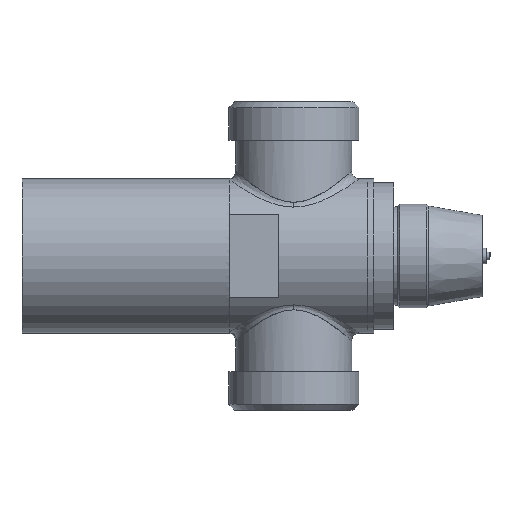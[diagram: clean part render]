
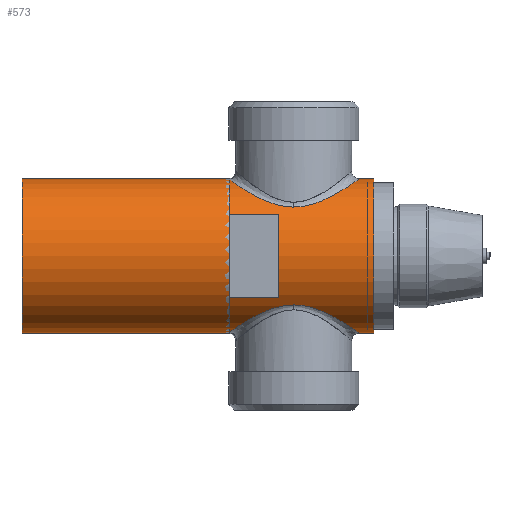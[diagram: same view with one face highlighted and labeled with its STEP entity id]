
A CAD part, left-side view. The second image highlights one B-rep face of the part: STEP entity #573.
In plain terms, the highlighted cylindrical face has radius 20 mm (diameter 40 mm), a full revolution.
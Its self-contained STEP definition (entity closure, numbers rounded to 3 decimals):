
#573=ADVANCED_FACE('',(#665,#666),#605,.T.);
#605=CYLINDRICAL_SURFACE('',#2397,20.);
#665=FACE_BOUND('',#751,.T.);
#666=FACE_BOUND('',#752,.T.);
#751=EDGE_LOOP('',(#994));
#752=EDGE_LOOP('',(#995));
#994=ORIENTED_EDGE('',*,*,#1590,.T.);
#995=ORIENTED_EDGE('',*,*,#1591,.T.);
#1292=VERTEX_POINT('',#5471);
#1293=VERTEX_POINT('',#5473);
#1590=EDGE_CURVE('',#1292,#1292,#1738,.T.);
#1591=EDGE_CURVE('',#1293,#1293,#1739,.T.);
#1738=CIRCLE('',#2395,20.);
#1739=CIRCLE('',#2396,20.);
#2395=AXIS2_PLACEMENT_3D('',#5470,#2646,#2647);
#2396=AXIS2_PLACEMENT_3D('',#5472,#2648,#2649);
#2397=AXIS2_PLACEMENT_3D('',#5474,#2650,#2651);
#2646=DIRECTION('',(0.,-1.,0.));
#2647=DIRECTION('',(0.,0.,-1.));
#2648=DIRECTION('',(0.,1.,0.));
#2649=DIRECTION('',(-1.,0.,0.));
#2650=DIRECTION('',(0.,-1.,0.));
#2651=DIRECTION('',(0.,0.,-1.));
#5470=CARTESIAN_POINT('',(0.,70.479,40.));
#5471=CARTESIAN_POINT('',(0.,70.479,20.));
#5472=CARTESIAN_POINT('',(0.,-20.79,40.));
#5473=CARTESIAN_POINT('',(-20.,-20.79,40.));
#5474=CARTESIAN_POINT('',(0.,70.479,40.));
